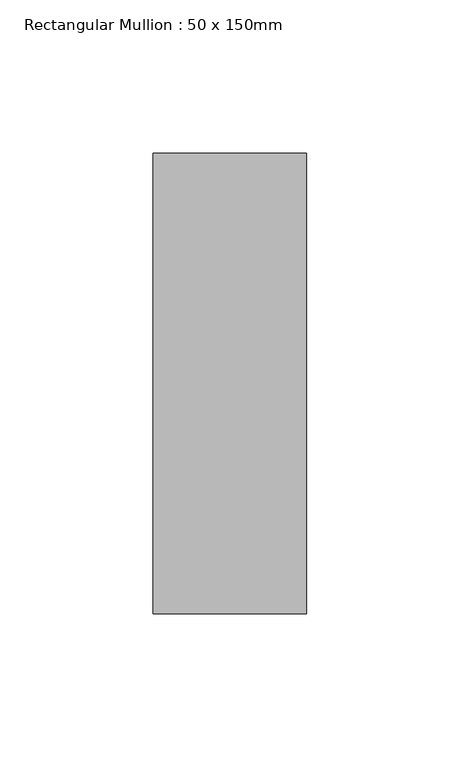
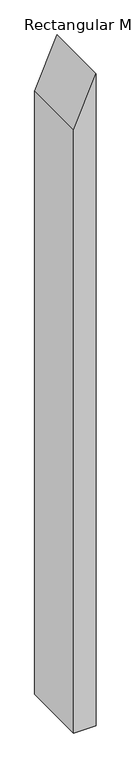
"""IFC4 building model written with IfcOpenShell, lengths in millimetres: member geometry, Rectangular Mullion : 50 x 150mm."""

from ifc_helpers import new_model, si_unit, frame, origin, place, context, project, spatial, polyline, outline, extrude, source, transform, mapped, element, save


def rectangular_mullion_50_x_150mm_b76a3dd2(model_context):
    return source(origin(), model_context, "Body", "SweptSolid", [
        extrude(outline(polyline([(0.0, 0.0), (-115.0341823, -50.0), (-1529.4123655, -50.0), (-1529.4123655, 0.0), (0.0, 0.0)])), frame((0.0, -75.0, 0.0), z_axis=(0.0, 1.0, 0.0), x_axis=(0.0, 0.0, 1.0)), (0.0, 0.0, 1.0), 150.0),
    ])


if __name__ == "__main__":
    model = new_model("IFC4")
    model_context = context("Model", 3, world=origin())
    ifc_project = project(units=[si_unit("LENGTHUNIT", "METRE", prefix="MILLI")], contexts=[model_context])
    site = spatial("IfcSite", under=ifc_project)
    building = spatial("IfcBuilding", under=site)
    placement = place(None, origin())
    rectangular_mullion_50_x_150mm_shape = rectangular_mullion_50_x_150mm_b76a3dd2(model_context)
    element("IfcMember", 1, ObjectType="Rectangular Mullion : 50 x 150mm", at=placement, inside=building, context=model_context, shape_type="MappedRepresentation", body=[
        mapped(rectangular_mullion_50_x_150mm_shape, transform((0.0, 0.0, 0.0), x_axis=(1.0, 0.0, 0.0), y_axis=(0.0, 1.0, 0.0), z_axis=(0.0, 0.0, 1.0))),
    ])
    save(model, "model.ifc")
